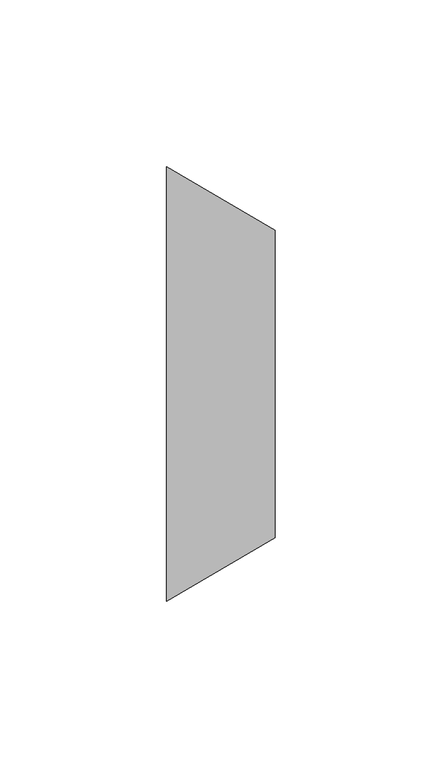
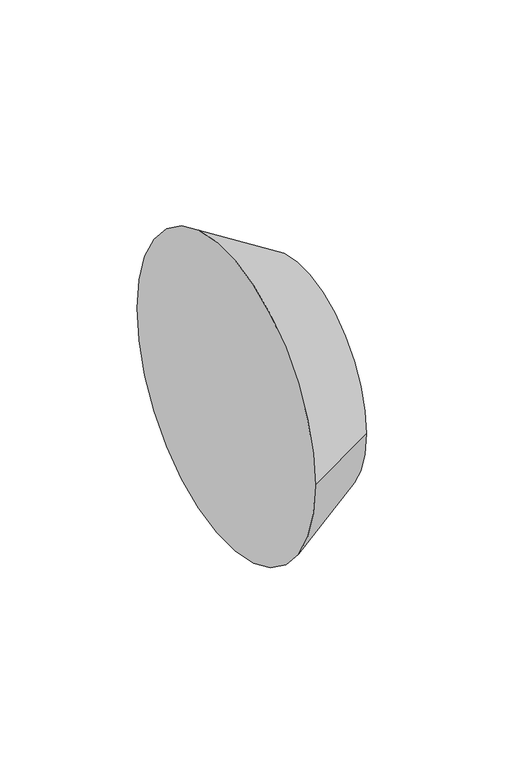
"""IFC4 building model written with IfcOpenShell, lengths in millimetres: pipe fitting geometry, M_Transición - Genérica : Estándar."""

from ifc_helpers import new_model, si_unit, frame, origin, place, context, project, spatial, polyline, circle_curve, source, transform, mapped, element, save
from ifc_brep_helpers import plane_surface, revolved_surface, advanced_brep


def pipe_fitting_ae14970a(model_context):
    return source(origin(), model_context, "Body", "AdvancedBrep", [
        advanced_brep(
        [(32.54375, -46.0375, 0.0), (32.54375, 46.0375, 0.0), (0.0, -65.0875, 0.0), (0.0, 65.0875, 0.0)],
        [
            (0, 1, circle_curve(frame((32.54375, 0.0, 0.0), z_axis=(1.0, 0.0, 0.0), x_axis=(0.0, -1.0, 0.0)), 46.0375)),
            (1, 0, circle_curve(frame((32.54375, 0.0, 0.0), z_axis=(1.0, 0.0, 0.0), x_axis=(0.0, 1.0, 0.0)), 46.0375)),
            (2, 3, circle_curve(frame((0.0, 0.0, 0.0), z_axis=(-1.0, 0.0, 0.0), x_axis=(0.0, 1.0, 0.0)), 65.0875)),
            (3, 2, circle_curve(frame((0.0, 0.0, 0.0), z_axis=(-1.0, 0.0, 0.0), x_axis=(0.0, -1.0, 0.0)), 65.0875)),
            (3, 1),
            (0, 2),
        ],
        [
            plane_surface(frame((32.54375, 0.0, 0.0), z_axis=(1.0, 0.0, 0.0), x_axis=(0.0, 0.0, -1.0))),
            plane_surface(frame((0.0, 0.0, 0.0), z_axis=(-1.0, 0.0, 0.0), x_axis=(0.0, 0.0, -1.0))),
            revolved_surface(polyline([(32.54375, -46.037499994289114, 0.0), (0.0, -65.0875, 0.0)]), (111.1911458, 0.0, 0.0), (-1.0, 0.0, 0.0)),
            revolved_surface(polyline([(32.54375, 46.037499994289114, 0.0), (0.0, 65.0875, 0.0)]), (111.1911458, 0.0, 0.0), (-1.0, 0.0, 0.0)),
        ],
        [
            (0, [[1, 2]]),
            (1, [[3, 4]]),
            (2, [[-4, 5, -1, 6]]),
            (3, [[-3, -6, -2, -5]]),
        ],
    ),
    ])


if __name__ == "__main__":
    model = new_model("IFC4")
    model_context = context("Model", 3, world=origin())
    ifc_project = project(units=[si_unit("LENGTHUNIT", "METRE", prefix="MILLI")], contexts=[model_context])
    site = spatial("IfcSite", under=ifc_project)
    building = spatial("IfcBuilding", under=site)
    placement = place(None, origin())
    pipe_fitting_shape = pipe_fitting_ae14970a(model_context)
    element("IfcPipeFitting", 1, ObjectType="M_Transición - Genérica : Estándar", at=placement, inside=building, context=model_context, shape_type="MappedRepresentation", body=[
        mapped(pipe_fitting_shape, transform((0.0, 0.0, 0.0), x_axis=(1.0, 0.0, 0.0), y_axis=(0.0, 1.0, 0.0), z_axis=(0.0, 0.0, 1.0))),
    ])
    save(model, "model.ifc")
